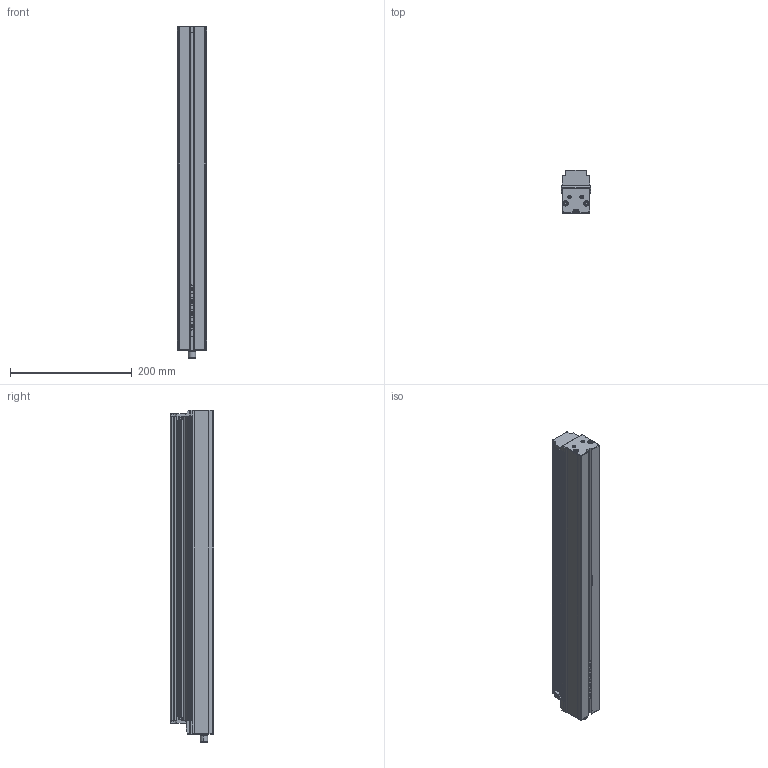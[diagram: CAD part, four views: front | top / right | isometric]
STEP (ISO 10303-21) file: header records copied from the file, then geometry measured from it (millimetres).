
FILE_DESCRIPTION (( 'STEP AP214' ), '1' );
FILE_NAME ('ELINE-EC-500-xxx-xx_CLIENT.STEP', '2026-06-08T12:07:40', ( '' ), ( '' ), 'SwSTEP 2.0', 'SolidWorks 2025', '' );
FILE_SCHEMA (( 'AUTOMOTIVE_DESIGN' ));
Length unit declared in the file: millimetre
Products named in the file (3): 1-X2014-01-3-A_1; ELINE-EC-xxx-xxx-xx_CLIENT_500; ELINE-EC-500-xxx-xx_CLIENT
Assembly tree (5 placements, depth 2):
  ELINE-EC-500-xxx-xx_CLIENT
    ELINE-EC-xxx-xxx-xx_CLIENT_500
    1-X2014-01-3-A_1  x4
Bounding box: 47.7 x 70.9 x 545.05 mm (x, y, z)
Volume: 1487119.2 mm3; surface area: 147947.5 mm2
Topology: 5 solids, 5 shells, 980 faces, 2547 edges, 1643 vertices
Faces by surface type: plane 460, cylinder 294, bspline 140, torus 64, cone 18, sphere 4
Entity records: 32588 total; most frequent: CARTESIAN_POINT 10871, ORIENTED_EDGE 4684, DIRECTION 4136, EDGE_CURVE 2342, VERTEX_POINT 1518, AXIS2_PLACEMENT_3D 1410, LINE 1316, VECTOR 1316
